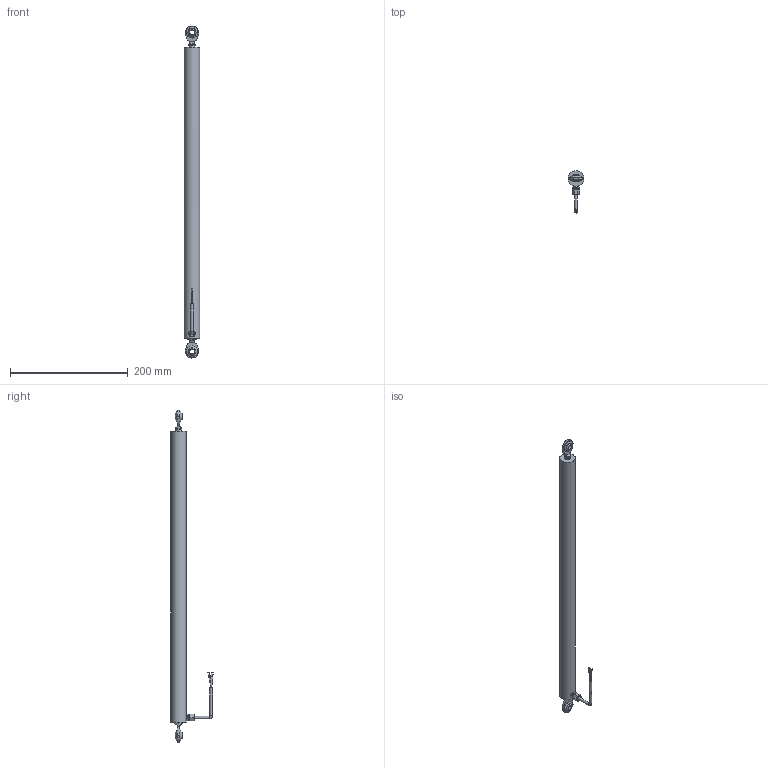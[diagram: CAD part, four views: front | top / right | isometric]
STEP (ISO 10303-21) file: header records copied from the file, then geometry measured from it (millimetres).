
FILE_DESCRIPTION(/* description */ (''),/* implementation_level */ '2;1');
FILE_NAME(/* name */ 'ILPS-27L-400-R-00-50-A (wrapped).step',/* time_stamp */ '2023-09-08T14:07:00-04:00',/* author */ ('TSC_Grant'),/* organization */ (''),/* preprocessor_version */ 'ST-DEVELOPER v19.2',/* originating_system */ 'Autodesk Inventor 2024',/* authorisation */ '');
FILE_SCHEMA (('AUTOMOTIVE_DESIGN { 1 0 10303 214 3 1 1 }'));
Length unit declared in the file: inch
Products named in the file (4): ILPS-27-100-R-00-50-A (wrapped); ILPS-27L-400-R-00-50-A_Simplify_1; ILPS-27L-400-R-00-50-A_Simplify_2; LZ-33 Cable
Assembly tree (3 placements, depth 2):
  ILPS-27-100-R-00-50-A (wrapped)
    ILPS-27L-400-R-00-50-A_Simplify_1
    ILPS-27L-400-R-00-50-A_Simplify_2
    LZ-33 Cable
Bounding box: 26.67 x 72.34 x 565.12 mm (x, y, z)
Volume: 295691.3 mm3; surface area: 71012.9 mm2
Topology: 3 solids, 3 shells, 148 faces, 338 edges, 222 vertices
Faces by surface type: plane 74, cylinder 53, bspline 8, torus 6, sphere 4, cone 3
Full cylindrical faces by diameter (mm): 0.635 x4, 0.762 x4, 4.369 x3, 4.572 x2, 8 x2, 8.712 x2, 9.398 x2, 10.999 x1, 26.67 x1
Entity records: 4990 total; most frequent: CARTESIAN_POINT 1191, DIRECTION 738, ORIENTED_EDGE 674, EDGE_CURVE 337, AXIS2_PLACEMENT_3D 297, VERTEX_POINT 222, EDGE_LOOP 179, STYLED_ITEM 151
